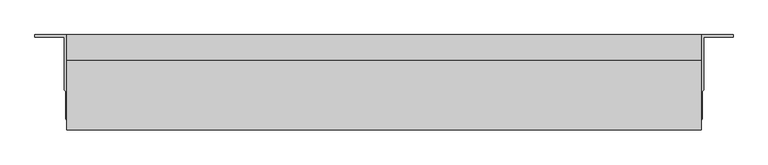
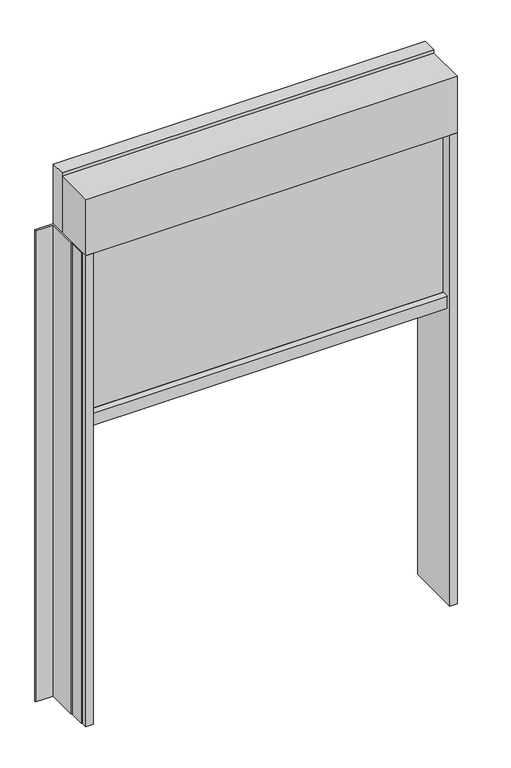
"""IFC4 building model written with IfcOpenShell, lengths in millimetres: proxy geometry, Renson_Fixscreen_Minimal_Single : Recessed - Front of the window - Medium - Access downwards - Fabric away from the window - Minimalistic window."""

from ifc_helpers import new_model, si_unit, point, frame, frame_2d, origin, origin_with_axes, place, context, project, spatial, polyline, circle_curve, trimmed, segment, composite_curve, outline, extrude, source, transform, mapped, element, save


def generic_models_946608be(model_context):
    return source(origin(), model_context, "Body", "SweptSolid", [
        extrude(outline(composite_curve([segment(polyline([(597.7950484, 840.0), (557.2951519, 840.0), (557.2951519, 874.1156826), (574.4192614, 875.0000198)]), True, "CONTINUOUS"), segment(trimmed(circle_curve(frame_2d((574.4450484, 874.5006852)), 0.5), [point((574.4192614, 875.0000198))], [point((574.9450484, 874.5006852))], False, "CARTESIAN"), True, "CONTINUOUS"), segment(polyline([(574.9450484, 874.5006852), (574.9450484, 873.5367989), (573.6799101, 873.5367989), (574.4202136, 869.0119223)]), True, "CONTINUOUS"), segment(trimmed(circle_curve(frame_2d((534.9450484, 862.5534911)), 40.0), [point((574.4202136, 869.0119223))], [point((574.9450484, 862.5534911))], False, "CARTESIAN"), True, "CONTINUOUS"), segment(polyline([(574.9450484, 862.5534911), (574.9450484, 854.5006852)]), True, "CONTINUOUS"), segment(trimmed(circle_curve(frame_2d((576.9450484, 854.5006852)), 2.0), [point((574.9450484, 854.5006852))], [point((576.9450484, 852.5006852))], True, "CARTESIAN"), True, "CONTINUOUS"), segment(polyline([(576.9450484, 852.5006852), (578.6450484, 852.5006852)]), True, "CONTINUOUS"), segment(trimmed(circle_curve(frame_2d((578.6450484, 854.5006852)), 2.0), [point((578.6450484, 852.5006852))], [point((580.6450484, 854.5006852))], True, "CARTESIAN"), True, "CONTINUOUS"), segment(polyline([(580.6450484, 854.5006852), (580.6450484, 862.5534911)]), True, "CONTINUOUS"), segment(trimmed(circle_curve(frame_2d((620.6450484, 862.5534911)), 40.0), [point((580.6450484, 862.5534911))], [point((581.1698832, 869.0119223))], False, "CARTESIAN"), True, "CONTINUOUS"), segment(polyline([(581.1698832, 869.0119223), (581.9101868, 873.5367989), (580.6450484, 873.5367989), (580.6450484, 874.5006852)]), True, "CONTINUOUS"), segment(trimmed(circle_curve(frame_2d((581.1450484, 874.5006852)), 0.5), [point((580.6450484, 874.5006852))], [point((581.1716087, 874.9999793))], False, "CARTESIAN"), True, "CONTINUOUS"), segment(polyline([(581.1716087, 874.9999793), (597.7950484, 874.1156826), (597.7950484, 840.0)]), True, "CONTINUOUS")], self_intersect=False)), frame((-480.0, 0.0, 0.0), z_axis=(1.0, 0.0, 0.0), x_axis=(0.0, 1.0, 0.0)), (0.0, 0.0, 1.0), 960.0),
        extrude(outline(polyline([(-480.0, 579.2950484), (480.0, 579.2950484), (480.0, 576.2950484), (-480.0, 576.2950484), (-480.0, 579.2950484)])), frame((0.0, 0.0, 852.5006852), z_axis=(0.0, 0.0, 1.0), x_axis=(1.0, 0.0, 0.0)), (0.0, 0.0, 1.0), 487.4993148),
        extrude(outline(polyline([(-500.0, 543.5959909), (-500.0, 558.3308105), (-501.7, 560.8592376), (-501.7, 603.8597773), (-503.5, 606.4882044), (-503.5, 689.6512978), (-550.0, 689.6512978), (-550.0, 693.5959909), (-480.0, 693.5959909), (-480.0, 543.5959909), (-500.0, 543.5959909)])), origin_with_axes(), (0.0, 0.0, 1.0), 1340.0),
        extrude(outline(polyline([(500.0, 543.5959909), (480.0, 543.5959909), (480.0, 693.5959909), (550.0, 693.5959909), (550.0, 689.6512978), (503.5, 689.6512978), (503.5, 606.4882044), (501.7, 603.8597773), (501.7, 560.8592376), (500.0, 558.3308105), (500.0, 543.5959909)])), origin_with_axes(), (0.0, 0.0, 1.0), 1340.0),
        extrude(outline(polyline([(-500.0, 693.5959909), (500.0, 693.5959909), (500.0, 653.8959909), (-500.0, 653.8959909), (-500.0, 693.5959909)])), frame((0.0, 0.0, 1340.0), z_axis=(0.0, 0.0, 1.0), x_axis=(1.0, 0.0, 0.0)), (0.0, 0.0, 1.0), 169.75),
        extrude(outline(polyline([(-500.0, 543.5959909), (-500.0, 653.5959909), (500.0, 653.5959909), (500.0, 543.5959909), (-500.0, 543.5959909)])), frame((0.0, 0.0, 1340.0), z_axis=(0.0, 0.0, 1.0), x_axis=(1.0, 0.0, 0.0)), (0.0, 0.0, 1.0), 160.0),
    ])


if __name__ == "__main__":
    model = new_model("IFC4")
    model_context = context("Model", 3, world=origin())
    ifc_project = project(units=[si_unit("LENGTHUNIT", "METRE", prefix="MILLI")], contexts=[model_context])
    site = spatial("IfcSite", under=ifc_project)
    building = spatial("IfcBuilding", under=site)
    placement = place(None, origin())
    generic_models_shape = generic_models_946608be(model_context)
    element("IfcBuildingElementProxy", 1, Name="Renson_Fixscreen_Minimal_Single : Recessed - Front of the window - Medium - Access downwards - Fabric away from the window - Minimalistic window", ObjectType="Renson_Fixscreen_Minimal_Single : Recessed - Front of the window - Medium - Access downwards - Fabric away from the window - Minimalistic window", at=placement, inside=building, context=model_context, shape_type="MappedRepresentation", body=[
        mapped(generic_models_shape, transform((0.0, 0.0, 0.0), x_axis=(1.0, 0.0, 0.0), y_axis=(0.0, 1.0, 0.0), z_axis=(0.0, 0.0, 1.0))),
    ])
    save(model, "model.ifc")
